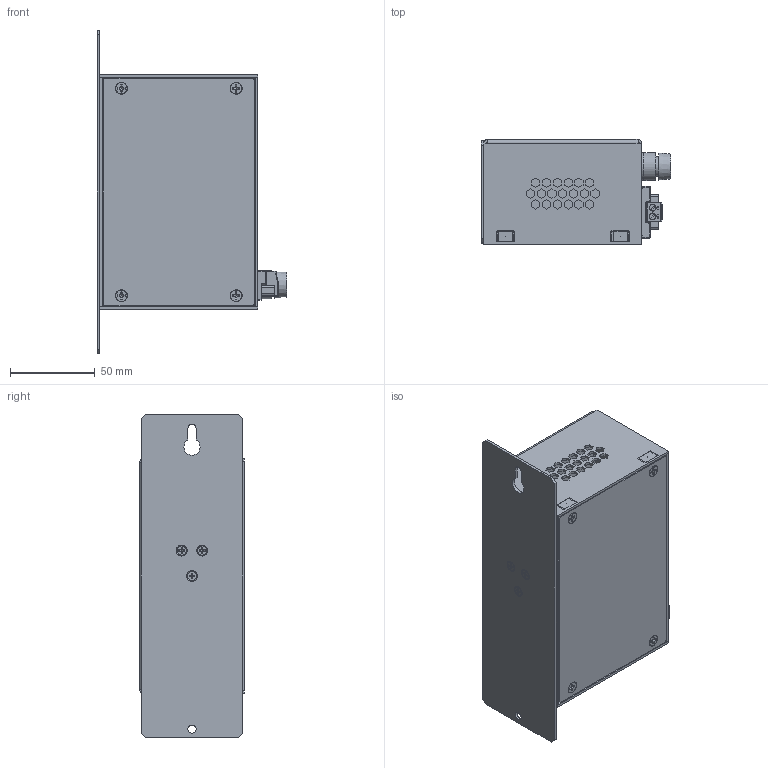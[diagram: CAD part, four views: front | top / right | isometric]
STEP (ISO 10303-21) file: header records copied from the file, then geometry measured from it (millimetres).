
FILE_DESCRIPTION(/* description */ ('STEP AP242','CAx-IF Rec.Pracs.---Representation and Presentation of Product Manufacturing Information (PMI)---4.0---2014-10-13','CAx-IF Rec.Pracs.---3D Tessellated Geometry---0.4---2014-09-14','2;1'),/* implementation_level */ '2;1');
FILE_NAME(/* name */ '666744768204b538c4a638b2',/* time_stamp */ '2024-06-10T18:22:48Z',/* author */ (''),/* organization */ (''),/* preprocessor_version */ 'ST-DEVELOPER v20',/* originating_system */ ' ',/* authorisation */ ' ');
FILE_SCHEMA (('AP242_MANAGED_MODEL_BASED_3D_ENGINEERING_MIM_LF { 1 0 10303 442 1 1 4 }'));
Length unit declared in the file: metre
Products named in the file (38): CD-420 - Rev A - RLH-2401-1BP - 24VDC 1.2Ah Battery Pack with Wall Mo
unt Plate; 91771A934_Passivated 18-8 Stainless Steel Phillips Flat Head Screw; 96640A342_Black-Oxide 18-8 Stainless Steel Phillips Flat Head Screws; 91771A936_Passivated 18-8 Stainless Steel Phillips Flat Head Screw; Wall Mount Plate; H-029; H-028 <1>; PEM CLS-440-2  ; H-028; 1; 2024_02_26_09_46_25_0475 <1>; 2024_02_26_09_46_25_0709; 2024_02_26_09_46_25_0693; 2024_02_26_09_46_25_0725; 2024_02_26_09_46_25_0647; 2024_02_26_09_46_25_0740; 2023_11_15_08_25_29_0485 <1>; 2023_11_15_08_25_29_0907; 2023_11_15_08_25_29_0782; 2023_11_15_08_25_29_0829; 2023_11_15_08_25_29_0923; 2023_11_15_08_25_29_0860; 2023_11_15_08_25_29_0876; 2023_11_15_08_25_29_0845; 2023_11_15_08_25_29_0938; 2023_11_15_08_25_29_0892; Fuse Holder <1>; 13; 15; 14; 10; 7; 6; 8; 9; 16; 17; 11
Assembly tree (52 placements, depth 3):
  CD-420 - Rev A - RLH-2401-1BP - 24VDC 1.2Ah Battery Pack with Wall Mo
unt Plate
    91771A934_Passivated 18-8 Stainless Steel Phillips Flat Head Screw  x3
    96640A342_Black-Oxide 18-8 Stainless Steel Phillips Flat Head Screws  x4
    91771A936_Passivated 18-8 Stainless Steel Phillips Flat Head Screw  x2
    Wall Mount Plate
    H-029
    H-028 <1>
      PEM CLS-440-2    x7
      H-028
      1  x4
    2024_02_26_09_46_25_0475 <1>
      2024_02_26_09_46_25_0709
      2024_02_26_09_46_25_0693
      2024_02_26_09_46_25_0725
      2024_02_26_09_46_25_0647
      2024_02_26_09_46_25_0740
    2023_11_15_08_25_29_0485 <1>
      2023_11_15_08_25_29_0907
      2023_11_15_08_25_29_0782
      2023_11_15_08_25_29_0829
      2023_11_15_08_25_29_0923
      2023_11_15_08_25_29_0860
      2023_11_15_08_25_29_0876
      2023_11_15_08_25_29_0845
      2023_11_15_08_25_29_0938
      2023_11_15_08_25_29_0892
    Fuse Holder <1>
      13
      15
      14
      10
      7
      6
      8
      9
      16
      17
      11
Bounding box: 111.63 x 61.72 x 189.99 mm (x, y, z)
Volume: 111643.9 mm3; surface area: 152481.6 mm2
Topology: 48 solids, 68 shells, 2698 faces, 7446 edges, 4943 vertices
Faces by surface type: plane 2124, cylinder 332, cone 129, bspline 81, sphere 17, torus 15
Full cylindrical faces by diameter (mm): 0.172 x4, 0.222 x4, 1.5 x4, 1.53 x4, 1.905 x1, 2 x2, 2.156 x7, 2.5 x2, 2.6 x2, 2.647 x4, 2.845 x45, 3 x12, 3.264 x2, 3.505 x36, 3.6 x2, 3.8 x2, 3.821 x2, 3.9 x2, 4 x6, 4.191 x7, 4.216 x7, 4.445 x1, 4.801 x1, 6 x2, 6.35 x7, 6.985 x2, 7.62 x2, 8.89 x1, 10.16 x2, 11.43 x19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
Entity records: 44683 total; most frequent: CARTESIAN_POINT 10733, ORIENTED_EDGE 6798, DIRECTION 6444, EDGE_CURVE 3399, LINE 2684, VECTOR 2684, VERTEX_POINT 2337, AXIS2_PLACEMENT_3D 1880
